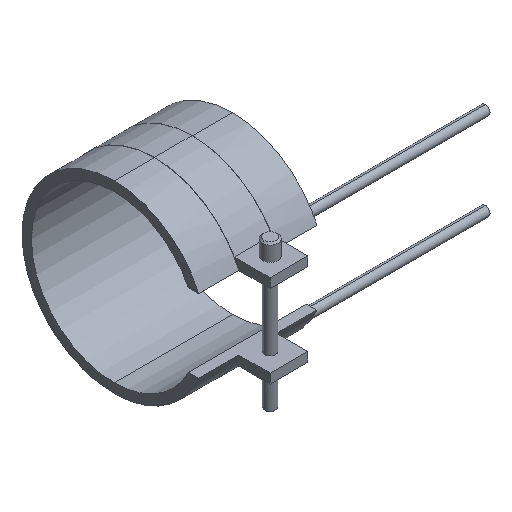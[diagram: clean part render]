
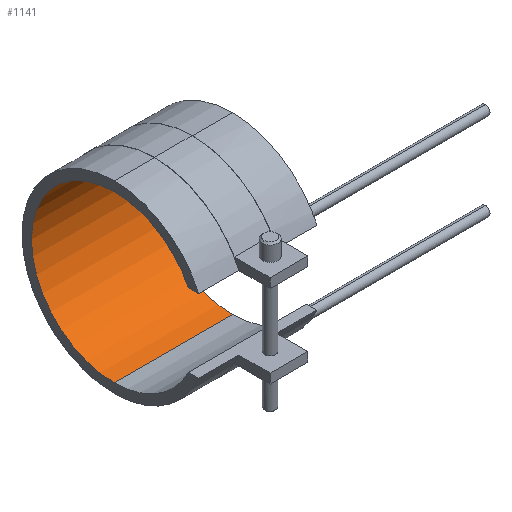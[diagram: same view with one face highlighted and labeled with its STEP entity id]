
A CAD part, isometric view. The second image highlights one B-rep face of the part: STEP entity #1141.
In plain terms, the highlighted cylindrical face has radius 35 mm (diameter 70 mm), a partial arc.
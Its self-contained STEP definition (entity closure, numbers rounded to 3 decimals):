
#822=CARTESIAN_POINT('Vertex',(-25.,0.,-35.)) ;
#829=CARTESIAN_POINT('Vertex',(25.,0.,-35.)) ;
#832=CARTESIAN_POINT('Line Origine',(25.,0.,-35.)) ;
#850=CARTESIAN_POINT('Axis2P3D Location',(-25.,0.,0.)) ;
#854=CARTESIAN_POINT('Vertex',(-25.,0.,35.)) ;
#911=CARTESIAN_POINT('Vertex',(25.,0.,35.)) ;
#921=CARTESIAN_POINT('Line Origine',(25.,0.,35.)) ;
#1012=CARTESIAN_POINT('Axis2P3D Location',(25.,0.,0.)) ;
#1130=CARTESIAN_POINT('Axis2P3D Location',(25.,0.,0.)) ;
#833=DIRECTION('Vector Direction',(1.,0.,0.)) ;
#851=DIRECTION('Axis2P3D Direction',(1.,0.,0.)) ;
#922=DIRECTION('Vector Direction',(1.,0.,0.)) ;
#1013=DIRECTION('Axis2P3D Direction',(1.,0.,0.)) ;
#1131=DIRECTION('Axis2P3D Direction',(1.,0.,-0.)) ;
#1132=DIRECTION('Axis2P3D XDirection',(0.,0.,-1.)) ;
#852=AXIS2_PLACEMENT_3D('Circle Axis2P3D',#850,#851,$) ;
#1014=AXIS2_PLACEMENT_3D('Circle Axis2P3D',#1012,#1013,$) ;
#1133=AXIS2_PLACEMENT_3D('Cylinder Axis2P3D',#1130,#1131,#1132) ;
#1136=ORIENTED_EDGE('',*,*,#1016,.T.) ;
#1137=ORIENTED_EDGE('',*,*,#925,.T.) ;
#1138=ORIENTED_EDGE('',*,*,#856,.F.) ;
#1139=ORIENTED_EDGE('',*,*,#836,.T.) ;
#834=VECTOR('Line Direction',#833,1.) ;
#923=VECTOR('Line Direction',#922,1.) ;
#1141=ADVANCED_FACE('14070050',(#1140),#1134,.F.) ;
#853=CIRCLE('generated circle',#852,35.) ;
#1015=CIRCLE('generated circle',#1014,35.) ;
#1134=CYLINDRICAL_SURFACE('generated cylinder',#1133,35.) ;
#836=EDGE_CURVE('',#823,#830,#835,.T.) ;
#856=EDGE_CURVE('',#823,#855,#853,.T.) ;
#925=EDGE_CURVE('',#912,#855,#924,.F.) ;
#1016=EDGE_CURVE('',#830,#912,#1015,.T.) ;
#1135=EDGE_LOOP('',(#1136,#1137,#1138,#1139)) ;
#1140=FACE_OUTER_BOUND('',#1135,.T.) ;
#835=LINE('Line',#832,#834) ;
#924=LINE('Line',#921,#923) ;
#823=VERTEX_POINT('',#822) ;
#830=VERTEX_POINT('',#829) ;
#855=VERTEX_POINT('',#854) ;
#912=VERTEX_POINT('',#911) ;
